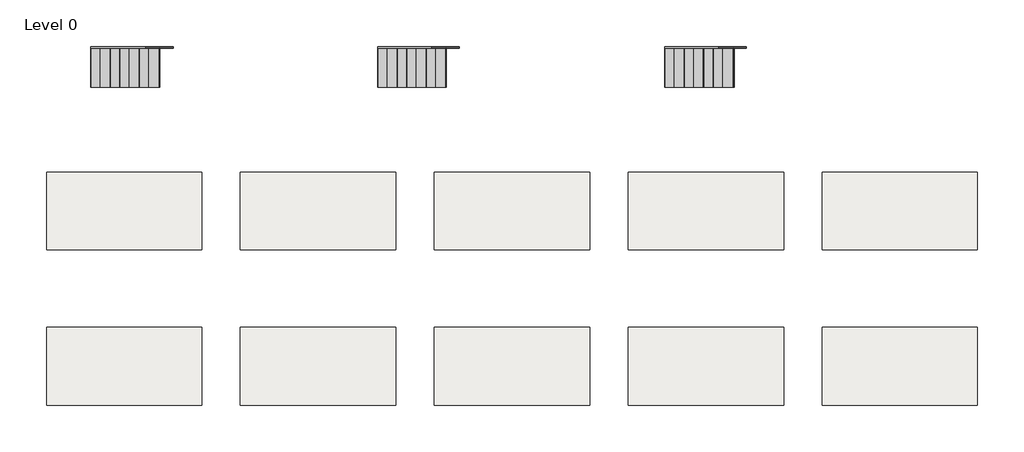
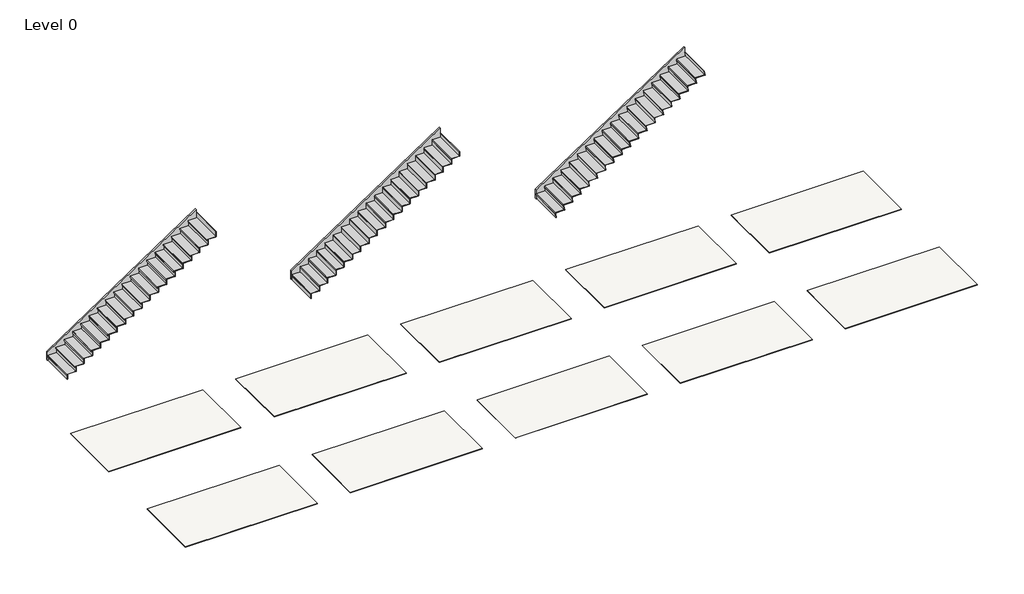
# One storey, incomplete: 10 coverings, 3 members, 3 stair flights.
"""IFC4 building model written with IfcOpenShell, lengths in millimetres."""

from ifc_helpers import new_model, si_unit, frame, origin, place, context, project, spatial, polyline, outline, extrude, transform, mapped, element, save
from components import stair_flight_d3969170, stair_flight_7e983563, stair_flight_66f02654

model = new_model("IFC4")

# Units and contexts
model_context = context("Model", 3, world=origin())
ifc_project = project(units=[si_unit("LENGTHUNIT", "METRE", prefix="MILLI")], contexts=[model_context])

# Site, building, storey
site = spatial("IfcSite", under=ifc_project)
building = spatial("IfcBuilding", under=site)
storey = spatial("IfcBuildingStorey", under=building, Name="Level 0", Elevation=0.0)

# Coverings
placement = place(None, origin())
element("IfcCovering", 1, ObjectType="Forte_Floor_Moda_Dolcedo_FeaturePlank", at=placement, inside=storey, context=model_context, shape_type="SweptSolid", body=[
    extrude(outline(polyline([(2000.0, 3138.7880264), (2000.0, 1138.7880264), (-2000.0, 1138.7880264), (-2000.0, 3138.7880264), (2000.0, 3138.7880264)])), frame((0.0, 0.0, -15.0), z_axis=(0.0, 0.0, 1.0), x_axis=(1.0, 0.0, 0.0)), (0.0, 0.0, 1.0), 15.0),
])
element("IfcCovering", 2, ObjectType="Forte_Floor_Moda_Capri_FeaturePlank", at=placement, inside=storey, context=model_context, shape_type="SweptSolid", body=[
    extrude(outline(polyline([(-8000.0, 3138.7880264), (-8000.0, 1138.7880264), (-12000.0, 1138.7880264), (-12000.0, 3138.7880264), (-8000.0, 3138.7880264)])), frame((0.0, 0.0, -15.0), z_axis=(0.0, 0.0, 1.0), x_axis=(1.0, 0.0, 0.0)), (0.0, 0.0, 1.0), 15.0),
])
element("IfcCovering", 3, ObjectType="Forte_Floor_Moda_Capri_LightFeaturePlank", at=placement, inside=storey, context=model_context, shape_type="SweptSolid", body=[
    extrude(outline(polyline([(-3000.0, 3138.7880264), (-3000.0, 1138.7880264), (-7000.0, 1138.7880264), (-7000.0, 3138.7880264), (-3000.0, 3138.7880264)])), frame((0.0, 0.0, -15.0), z_axis=(0.0, 0.0, 1.0), x_axis=(1.0, 0.0, 0.0)), (0.0, 0.0, 1.0), 15.0),
])
element("IfcCovering", 4, ObjectType="Forte_Floor_Moda_Isola_FeaturePlank", at=placement, inside=storey, context=model_context, shape_type="SweptSolid", body=[
    extrude(outline(polyline([(7000.0, 3138.7880264), (7000.0, 1138.7880264), (3000.0, 1138.7880264), (3000.0, 3138.7880264), (7000.0, 3138.7880264)])), frame((0.0, 0.0, -15.0), z_axis=(0.0, 0.0, 1.0), x_axis=(1.0, 0.0, 0.0)), (0.0, 0.0, 1.0), 15.0),
])
element("IfcCovering", 5, ObjectType="Forte_Floor_Moda_Mondello_FeaturePlank", at=placement, inside=storey, context=model_context, shape_type="SweptSolid", body=[
    extrude(outline(polyline([(12000.0, 3138.7880264), (12000.0, 1138.7880264), (8000.0, 1138.7880264), (8000.0, 3138.7880264), (12000.0, 3138.7880264)])), frame((0.0, 0.0, -15.0), z_axis=(0.0, 0.0, 1.0), x_axis=(1.0, 0.0, 0.0)), (0.0, 0.0, 1.0), 15.0),
])
element("IfcCovering", 6, ObjectType="Forte_Floor_Moda_Sorrento_LightFeaturePlank", at=placement, inside=storey, context=model_context, shape_type="SweptSolid", body=[
    extrude(outline(polyline([(2000.0, -861.2119736), (2000.0, -2861.2119736), (-2000.0, -2861.2119736), (-2000.0, -861.2119736), (2000.0, -861.2119736)])), frame((0.0, 0.0, -15.0), z_axis=(0.0, 0.0, 1.0), x_axis=(1.0, 0.0, 0.0)), (0.0, 0.0, 1.0), 15.0),
])
element("IfcCovering", 7, ObjectType="Forte_Floor_Moda_Mondello_LightFeaturePlank", at=placement, inside=storey, context=model_context, shape_type="SweptSolid", body=[
    extrude(outline(polyline([(-8000.0, -861.2119736), (-8000.0, -2861.2119736), (-12000.0, -2861.2119736), (-12000.0, -861.2119736), (-8000.0, -861.2119736)])), frame((0.0, 0.0, -15.0), z_axis=(0.0, 0.0, 1.0), x_axis=(1.0, 0.0, 0.0)), (0.0, 0.0, 1.0), 15.0),
])
element("IfcCovering", 8, ObjectType="Forte_Floor_Moda_Sorrento_FeaturePlank", at=placement, inside=storey, context=model_context, shape_type="SweptSolid", body=[
    extrude(outline(polyline([(-3000.0, -861.2119736), (-3000.0, -2861.2119736), (-7000.0, -2861.2119736), (-7000.0, -861.2119736), (-3000.0, -861.2119736)])), frame((0.0, 0.0, -15.0), z_axis=(0.0, 0.0, 1.0), x_axis=(1.0, 0.0, 0.0)), (0.0, 0.0, 1.0), 15.0),
])
element("IfcCovering", 9, ObjectType="Forte_Floor_Moda_Tuscany_FeaturePlank", at=placement, inside=storey, context=model_context, shape_type="SweptSolid", body=[
    extrude(outline(polyline([(7000.0, -861.2119736), (7000.0, -2861.2119736), (3000.0, -2861.2119736), (3000.0, -861.2119736), (7000.0, -861.2119736)])), frame((0.0, 0.0, -15.0), z_axis=(0.0, 0.0, 1.0), x_axis=(1.0, 0.0, 0.0)), (0.0, 0.0, 1.0), 15.0),
])
element("IfcCovering", 10, ObjectType="Forte_Floor_Moda_Verona_FeaturePlank", at=placement, inside=storey, context=model_context, shape_type="SweptSolid", body=[
    extrude(outline(polyline([(12000.0, -861.2119736), (12000.0, -2861.2119736), (8000.0, -2861.2119736), (8000.0, -861.2119736), (12000.0, -861.2119736)])), frame((0.0, 0.0, -15.0), z_axis=(0.0, 0.0, 1.0), x_axis=(1.0, 0.0, 0.0)), (0.0, 0.0, 1.0), 15.0),
])

# Members
element("IfcMember", 11, ObjectType="Stringer-50mm_Width", at=placement, inside=storey, context=model_context, shape_type="SweptSolid", body=[
    extrude(outline(polyline([(279.629273, -3463.7983088), (0.0, -3463.7983088), (0.0, -3162.1319632), (2798.8891029, 1036.2016912), (3279.629273, 1036.2016912), (279.629273, -3463.7983088)])), frame((0.0, 6330.793368, 0.0), z_axis=(0.0, 1.0, 0.0), x_axis=(0.0, 0.0, 1.0)), (0.0, 0.0, 1.0), 50.0),
])
element("IfcMember", 12, ObjectType="Stringer-50mm_Width", at=placement, inside=storey, context=model_context, shape_type="SweptSolid", body=[
    extrude(outline(polyline([(262.9626063, -10863.7983088), (0.0, -10863.7983088), (0.0, -10537.1319632), (2782.2224362, -6363.7983088), (3262.9626063, -6363.7983088), (262.9626063, -10863.7983088)])), frame((0.0, 6330.793368, 0.0), z_axis=(0.0, 1.0, 0.0), x_axis=(0.0, 0.0, 1.0)), (0.0, 0.0, 1.0), 50.0),
])
element("IfcMember", 13, ObjectType="Stringer-50mm_Width", at=placement, inside=storey, context=model_context, shape_type="SweptSolid", body=[
    extrude(outline(polyline([(279.629273, 3936.2016912), (0.0, 3936.2016912), (0.0, 4237.8680368), (2798.8891029, 8436.2016912), (3279.629273, 8436.2016912), (279.629273, 3936.2016912)])), frame((0.0, 6330.793368, 0.0), z_axis=(0.0, 1.0, 0.0), x_axis=(0.0, 0.0, 1.0)), (0.0, 0.0, 1.0), 50.0),
])

# Stair flights
stair_flight_shape = stair_flight_d3969170(model_context)
element("IfcStairFlight", 14, ObjectType="Forte_StairNosingRun_12.5mmTread_Square", at=placement, inside=storey, context=model_context, shape_type="MappedRepresentation", body=[
    mapped(stair_flight_shape, transform((0.0, 0.0, 0.0), x_axis=(1.0, 0.0, 0.0), y_axis=(0.0, 1.0, 0.0), z_axis=(0.0, 0.0, 1.0))),
])
stair_flight_2_shape = stair_flight_7e983563(model_context)
element("IfcStairFlight", 15, ObjectType="Forte_StairNosingRun_12.5mmTread_Bullnose", at=placement, inside=storey, context=model_context, shape_type="MappedRepresentation", body=[
    mapped(stair_flight_2_shape, transform((0.0, 0.0, 0.0), x_axis=(1.0, 0.0, 0.0), y_axis=(0.0, 1.0, 0.0), z_axis=(0.0, 0.0, 1.0))),
])
stair_flight_3_shape = stair_flight_66f02654(model_context)
element("IfcStairFlight", 16, ObjectType="Forte_StairNosingRun_12.5mmTread_Raked", at=placement, inside=storey, context=model_context, shape_type="MappedRepresentation", body=[
    mapped(stair_flight_3_shape, transform((0.0, 0.0, 0.0), x_axis=(1.0, 0.0, 0.0), y_axis=(0.0, 1.0, 0.0), z_axis=(0.0, 0.0, 1.0))),
])

save(model, "model.ifc")
